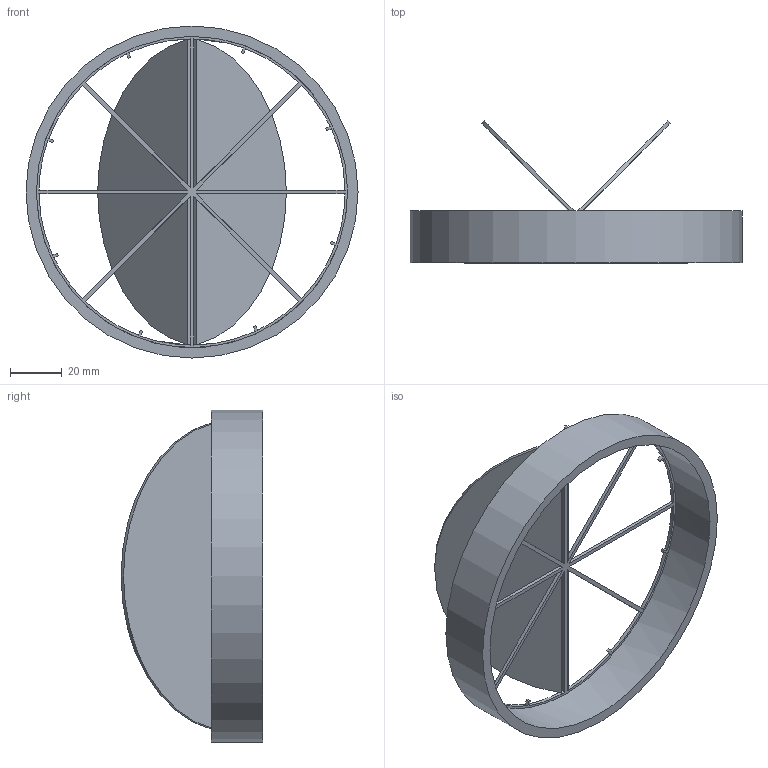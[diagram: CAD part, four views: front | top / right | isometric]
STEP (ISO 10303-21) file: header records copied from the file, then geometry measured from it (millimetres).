
FILE_DESCRIPTION(/* description */ (''),/* implementation_level */ '2;1');
FILE_NAME(/* name */ 'Z:\Output\RVE_125-02588-002.stp',/* time_stamp */ '2017-09-20T11:53:15+02:00',/* author */ ('Engineering1'),/* organization */ (''),/* preprocessor_version */ 'ST-DEVELOPER v16.5',/* originating_system */ 'Autodesk Inventor 2017',/* authorisation */ '');
FILE_SCHEMA (('AUTOMOTIVE_DESIGN { 1 0 10303 214 3 1 1 }'));
Length unit declared in the file: millimetre
Products named in the file (1): RVE-1
Bounding box: 128 x 54.69 x 128 mm (x, y, z)
Volume: 44204.6 mm3; surface area: 40214 mm2
Topology: 1 solids, 1 shells, 71 faces, 244 edges, 190 vertices
Faces by surface type: plane 51, cylinder 20
Full cylindrical faces by diameter (mm): 120 x1, 128 x1
Entity records: 2750 total; most frequent: CARTESIAN_POINT 513, ORIENTED_EDGE 440, DIRECTION 438, EDGE_CURVE 216, LINE 180, VECTOR 180, VERTEX_POINT 140, AXIS2_PLACEMENT_3D 129
